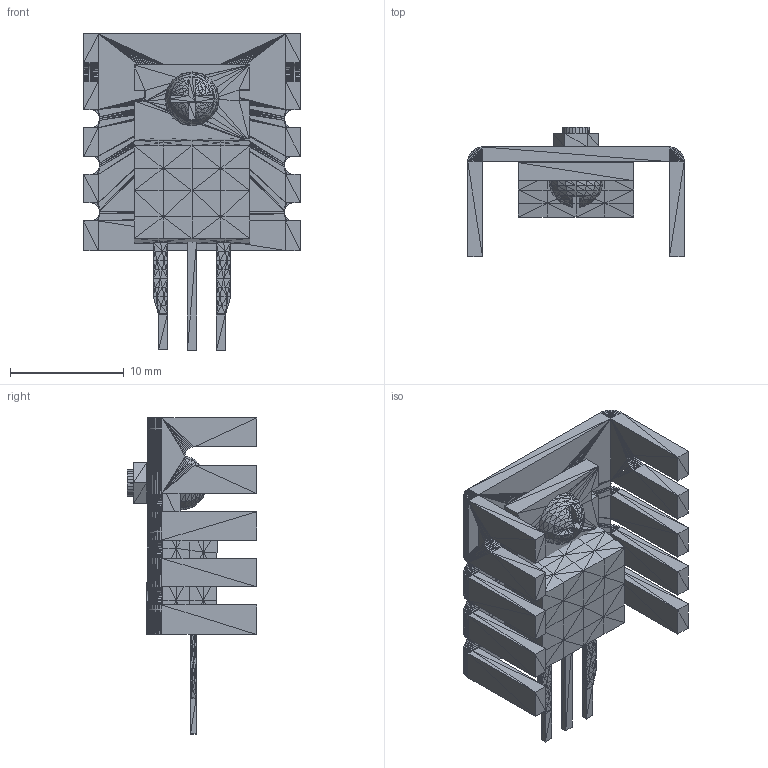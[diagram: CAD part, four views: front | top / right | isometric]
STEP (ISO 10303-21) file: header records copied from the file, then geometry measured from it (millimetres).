
FILE_DESCRIPTION(('HOOPS Exchange Step'),'2;1');
FILE_NAME('***.stp');
FILE_SCHEMA( ('AP242_MANAGED_MODEL_BASED_3D_ENGINEERING_MIM_LF {1 0 10303 442 1 1 4 }') );
Length unit declared in the file: inch
Products named in the file (13): TO-220WHTSNKSM_2; TO-220WHTSNKSM_3; TO-220WHTSNKSM_4; TO-220WHTSNKSM_5; TO-220WHTSNKSM_6; TO-220WHTSNKSM_7; TO-220WHTSNKSM_8; TO-220WHTSNKSM_9; TO-220WHTSNKSM_10; TO-220WHTSNKSM_11; TO-220WHTSNKSM_12; TO-220WHTSNKSM_13; TO-220WHTSNKSM
Assembly tree (12 placements, depth 2):
  TO-220WHTSNKSM
    TO-220WHTSNKSM_2
    TO-220WHTSNKSM_3
    TO-220WHTSNKSM_4
    TO-220WHTSNKSM_5
    TO-220WHTSNKSM_6
    TO-220WHTSNKSM_7
    TO-220WHTSNKSM_8
    TO-220WHTSNKSM_9
    TO-220WHTSNKSM_10
    TO-220WHTSNKSM_11
    TO-220WHTSNKSM_12
    TO-220WHTSNKSM_13
Bounding box: 19.05 x 11.4 x 27.81 mm (x, y, z)
Surface area: 4602.8 mm2 (no closed solid volume)
Topology: 0 solids, 5334 shells, 5334 faces, 12042 edges, 11178 vertices
Faces by surface type: plane 5334
Entity records: 152486 total; most frequent: CARTESIAN_POINT 28580, DIRECTION 22762, ORIENTED_EDGE 16002, VECTOR 12042, LINE 12042, EDGE_CURVE 12042, VERTEX_POINT 11178, AXIS2_PLACEMENT_3D 5360
